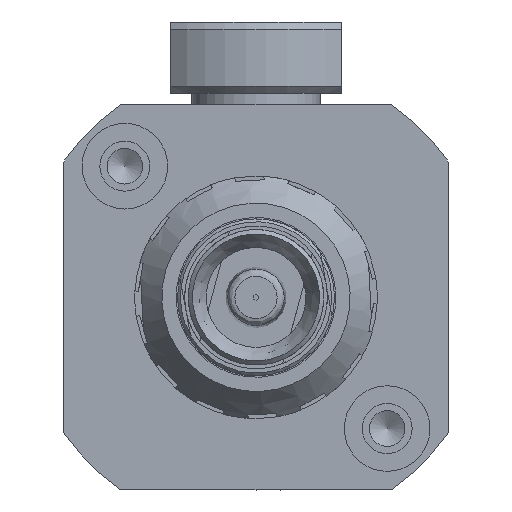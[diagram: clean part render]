
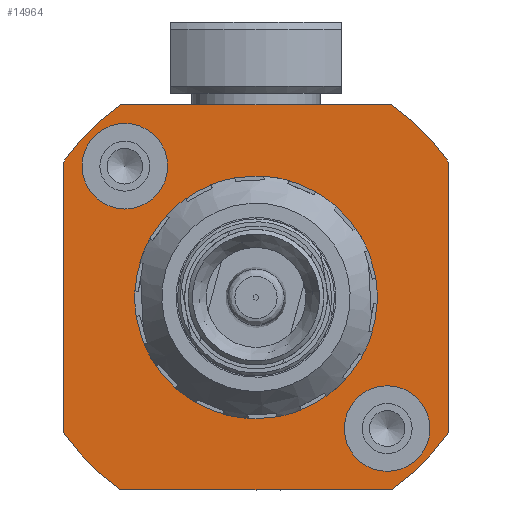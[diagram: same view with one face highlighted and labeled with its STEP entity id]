
A CAD part, front view. The second image highlights one B-rep face of the part: STEP entity #14964.
In plain terms, the highlighted planar face has unit normal (0, -1, 0).
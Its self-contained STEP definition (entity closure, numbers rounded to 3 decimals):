
#152 = FACE_BOUND ( 'NONE', #24459, .T. ) ;
#366 = CIRCLE ( 'NONE', #15009, 8.5 ) ;
#1126 = EDGE_CURVE ( 'NONE', #4994, #4994, #14120, .T. ) ;
#1312 = EDGE_CURVE ( 'NONE', #8960, #19687, #23917, .T. ) ;
#2067 = AXIS2_PLACEMENT_3D ( 'NONE', #9621, #17269, #11521 ) ;
#3399 = DIRECTION ( 'NONE',  ( 0., 0., 1. ) ) ;
#3726 = EDGE_CURVE ( 'NONE', #7298, #8960, #18338, .T. ) ;
#3759 = VECTOR ( 'NONE', #9856, 1000. ) ;
#3997 = LINE ( 'NONE', #19564, #3759 ) ;
#4525 = EDGE_CURVE ( 'NONE', #13399, #13399, #13867, .T. ) ;
#4615 = CARTESIAN_POINT ( 'NONE',  ( -96.64, -13.467, 1010.979 ) ) ;
#4658 = CARTESIAN_POINT ( 'NONE',  ( -87.153, -13.467, 997.479 ) ) ;
#4994 = VERTEX_POINT ( 'NONE', #16334 ) ;
#5257 = AXIS2_PLACEMENT_3D ( 'NONE', #4658, #23675, #24188 ) ;
#5331 = CARTESIAN_POINT ( 'NONE',  ( -77.666, -13.467, 983.979 ) ) ;
#5386 = DIRECTION ( 'NONE',  ( 0., 0., -1. ) ) ;
#5738 = EDGE_CURVE ( 'NONE', #22624, #21088, #16831, .T. ) ;
#6746 = VECTOR ( 'NONE', #10740, 1000. ) ;
#7298 = VERTEX_POINT ( 'NONE', #10378 ) ;
#8161 = EDGE_LOOP ( 'NONE', ( #25085 ) ) ;
#8456 = CARTESIAN_POINT ( 'NONE',  ( -87.153, -13.467, 1005.979 ) ) ;
#8593 = DIRECTION ( 'NONE',  ( 0., 0., -1. ) ) ;
#8832 = VERTEX_POINT ( 'NONE', #4615 ) ;
#8935 = CARTESIAN_POINT ( 'NONE',  ( -73.653, -13.467, 1006.966 ) ) ;
#8960 = VERTEX_POINT ( 'NONE', #8935 ) ;
#8999 = CARTESIAN_POINT ( 'NONE',  ( -87.153, -13.467, 997.479 ) ) ;
#9621 = CARTESIAN_POINT ( 'NONE',  ( -96.345, -13.467, 1006.671 ) ) ;
#9856 = DIRECTION ( 'NONE',  ( 0., 0., 1. ) ) ;
#10132 = CIRCLE ( 'NONE', #5257, 16.5 ) ;
#10378 = CARTESIAN_POINT ( 'NONE',  ( -77.666, -13.467, 1010.979 ) ) ;
#10399 = CARTESIAN_POINT ( 'NONE',  ( -87.153, -13.467, 997.479 ) ) ;
#10459 = EDGE_CURVE ( 'NONE', #14686, #8832, #16750, .T. ) ;
#10627 = CARTESIAN_POINT ( 'NONE',  ( -73.653, -13.467, 997.479 ) ) ;
#10635 = AXIS2_PLACEMENT_3D ( 'NONE', #8999, #13213, #16777 ) ;
#10740 = DIRECTION ( 'NONE',  ( 1., 0., 0. ) ) ;
#11288 = VECTOR ( 'NONE', #8593, 1000. ) ;
#11521 = DIRECTION ( 'NONE',  ( 0., 0., 1. ) ) ;
#11613 = CARTESIAN_POINT ( 'NONE',  ( -100.653, -13.467, 987.992 ) ) ;
#11648 = CARTESIAN_POINT ( 'NONE',  ( -100.653, -13.467, 1006.966 ) ) ;
#11757 = ORIENTED_EDGE ( 'NONE', *, *, #1126, .F. ) ;
#12087 = AXIS2_PLACEMENT_3D ( 'NONE', #14980, #20882, #3399 ) ;
#12620 = ORIENTED_EDGE ( 'NONE', *, *, #19025, .F. ) ;
#12659 = CARTESIAN_POINT ( 'NONE',  ( -87.153, -13.467, 1010.979 ) ) ;
#13213 = DIRECTION ( 'NONE',  ( 0., 1., 0. ) ) ;
#13399 = VERTEX_POINT ( 'NONE', #23114 ) ;
#13438 = DIRECTION ( 'NONE',  ( 0., 1., 0. ) ) ;
#13765 = VERTEX_POINT ( 'NONE', #11613 ) ;
#13831 = ORIENTED_EDGE ( 'NONE', *, *, #18065, .F. ) ;
#13867 = CIRCLE ( 'NONE', #2067, 3. ) ;
#13968 = DIRECTION ( 'NONE',  ( 0., -1., 0. ) ) ;
#14120 = CIRCLE ( 'NONE', #12087, 3. ) ;
#14193 = DIRECTION ( 'NONE',  ( 0., 1., 0. ) ) ;
#14310 = AXIS2_PLACEMENT_3D ( 'NONE', #19067, #13438, #19332 ) ;
#14686 = VERTEX_POINT ( 'NONE', #11648 ) ;
#14715 = ORIENTED_EDGE ( 'NONE', *, *, #10459, .F. ) ;
#14769 = AXIS2_PLACEMENT_3D ( 'NONE', #23247, #19545, #5386 ) ;
#14964 = ADVANCED_FACE ( 'NONE', ( #22873, #19422, #152, #17117 ), #24927, .F. ) ;
#14980 = CARTESIAN_POINT ( 'NONE',  ( -77.961, -13.467, 988.286 ) ) ;
#15009 = AXIS2_PLACEMENT_3D ( 'NONE', #10399, #13968, #20115 ) ;
#15233 = EDGE_LOOP ( 'NONE', ( #14715, #22280, #12620, #16560, #18496, #17219, #23945, #13831 ) ) ;
#16334 = CARTESIAN_POINT ( 'NONE',  ( -77.961, -13.467, 991.286 ) ) ;
#16483 = LINE ( 'NONE', #12659, #6746 ) ;
#16560 = ORIENTED_EDGE ( 'NONE', *, *, #5738, .F. ) ;
#16663 = CARTESIAN_POINT ( 'NONE',  ( -96.64, -13.467, 983.979 ) ) ;
#16750 = CIRCLE ( 'NONE', #10635, 16.5 ) ;
#16777 = DIRECTION ( 'NONE',  ( 0., 0., -1. ) ) ;
#16831 = LINE ( 'NONE', #24261, #17998 ) ;
#17117 = FACE_BOUND ( 'NONE', #8161, .T. ) ;
#17219 = ORIENTED_EDGE ( 'NONE', *, *, #1312, .F. ) ;
#17269 = DIRECTION ( 'NONE',  ( 0., -1., 0. ) ) ;
#17940 = EDGE_CURVE ( 'NONE', #19687, #22624, #23457, .T. ) ;
#17998 = VECTOR ( 'NONE', #24650, 1000. ) ;
#18065 = EDGE_CURVE ( 'NONE', #8832, #7298, #16483, .T. ) ;
#18338 = CIRCLE ( 'NONE', #14310, 16.5 ) ;
#18411 = DIRECTION ( 'NONE',  ( 0., 0., -1. ) ) ;
#18496 = ORIENTED_EDGE ( 'NONE', *, *, #17940, .F. ) ;
#18966 = EDGE_CURVE ( 'NONE', #19961, #19961, #366, .T. ) ;
#19025 = EDGE_CURVE ( 'NONE', #21088, #13765, #10132, .T. ) ;
#19067 = CARTESIAN_POINT ( 'NONE',  ( -87.153, -13.467, 997.479 ) ) ;
#19332 = DIRECTION ( 'NONE',  ( 0., 0., -1. ) ) ;
#19422 = FACE_OUTER_BOUND ( 'NONE', #15233, .T. ) ;
#19538 = ORIENTED_EDGE ( 'NONE', *, *, #18966, .F. ) ;
#19545 = DIRECTION ( 'NONE',  ( 0., 1., 0. ) ) ;
#19564 = CARTESIAN_POINT ( 'NONE',  ( -100.653, -13.467, 997.479 ) ) ;
#19687 = VERTEX_POINT ( 'NONE', #24225 ) ;
#19961 = VERTEX_POINT ( 'NONE', #8456 ) ;
#20115 = DIRECTION ( 'NONE',  ( 0., 0., 1. ) ) ;
#20234 = EDGE_LOOP ( 'NONE', ( #19538 ) ) ;
#20469 = CARTESIAN_POINT ( 'NONE',  ( -87.153, -13.467, 997.479 ) ) ;
#20882 = DIRECTION ( 'NONE',  ( 0., -1., 0. ) ) ;
#21088 = VERTEX_POINT ( 'NONE', #16663 ) ;
#22280 = ORIENTED_EDGE ( 'NONE', *, *, #23900, .F. ) ;
#22624 = VERTEX_POINT ( 'NONE', #5331 ) ;
#22873 = FACE_BOUND ( 'NONE', #20234, .T. ) ;
#23114 = CARTESIAN_POINT ( 'NONE',  ( -96.345, -13.467, 1009.671 ) ) ;
#23247 = CARTESIAN_POINT ( 'NONE',  ( -87.153, -13.467, 997.479 ) ) ;
#23457 = CIRCLE ( 'NONE', #24281, 16.5 ) ;
#23675 = DIRECTION ( 'NONE',  ( 0., 1., 0. ) ) ;
#23900 = EDGE_CURVE ( 'NONE', #13765, #14686, #3997, .T. ) ;
#23917 = LINE ( 'NONE', #10627, #11288 ) ;
#23945 = ORIENTED_EDGE ( 'NONE', *, *, #3726, .F. ) ;
#24188 = DIRECTION ( 'NONE',  ( 0., 0., -1. ) ) ;
#24225 = CARTESIAN_POINT ( 'NONE',  ( -73.653, -13.467, 987.992 ) ) ;
#24261 = CARTESIAN_POINT ( 'NONE',  ( -87.153, -13.467, 983.979 ) ) ;
#24281 = AXIS2_PLACEMENT_3D ( 'NONE', #20469, #14193, #18411 ) ;
#24459 = EDGE_LOOP ( 'NONE', ( #11757 ) ) ;
#24650 = DIRECTION ( 'NONE',  ( -1., 0., 0. ) ) ;
#24927 = PLANE ( 'NONE',  #14769 ) ;
#25085 = ORIENTED_EDGE ( 'NONE', *, *, #4525, .F. ) ;
